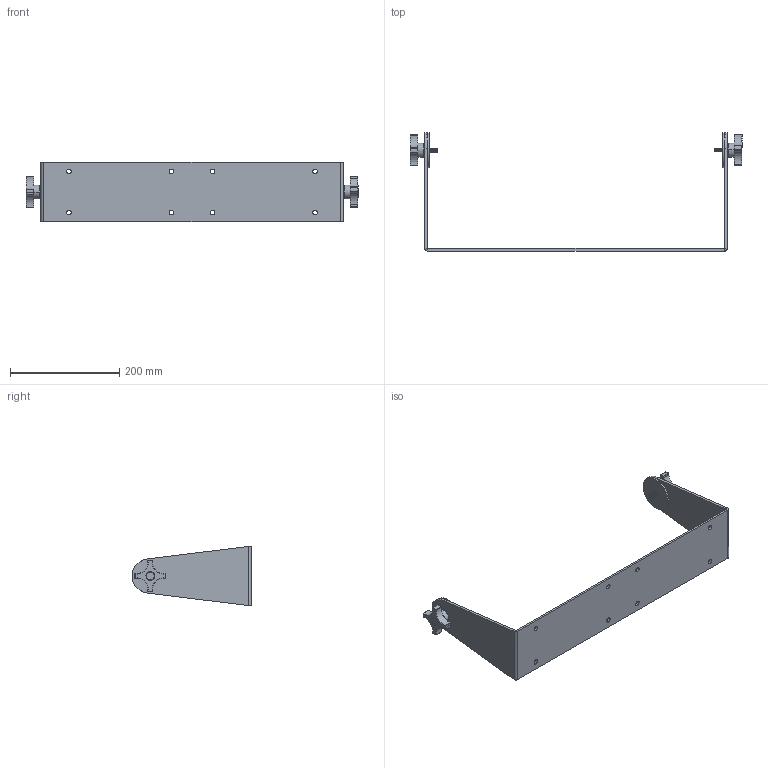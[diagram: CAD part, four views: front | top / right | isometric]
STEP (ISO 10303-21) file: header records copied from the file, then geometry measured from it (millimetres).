
FILE_DESCRIPTION (( 'STEP AP214' ), '1' );
FILE_NAME ('Wall Yoke for 19.5 inch Universal Mount Monitor, YW19.5-2.STEP', '2022-06-22T18:11:08', ( '' ), ( '' ), 'SwSTEP 2.0', 'SolidWorks 2020', '' );
FILE_SCHEMA (( 'AUTOMOTIVE_DESIGN' ));
Length unit declared in the file: inch
Products named in the file (5): Rubber Washer, 10177; Knob, 30053; Wall Yoke for 19.5 inch Universal Mount Monitor, YW19.5-2; Bushing, 30501; All Wall Yoke Configurations, YWxx_YW19.5-2
Assembly tree (7 placements, depth 2):
  Wall Yoke for 19.5 inch Universal Mount Monitor, YW19.5-2
    All Wall Yoke Configurations, YWxx_YW19.5-2
    Rubber Washer, 10177  x2
    Knob, 30053  x2
    Bushing, 30501  x2
Bounding box: 606.45 x 215.9 x 107.95 mm (x, y, z)
Volume: 511556.7 mm3; surface area: 225152.4 mm2
Topology: 7 solids, 7 shells, 568 faces, 1228 edges, 666 vertices
Faces by surface type: cylinder 262, cone 176, torus 48, sphere 40, plane 38, bspline 4
Entity records: 10971 total; most frequent: CARTESIAN_POINT 4020, DIRECTION 1495, ORIENTED_EDGE 1340, EDGE_CURVE 670, AXIS2_PLACEMENT_3D 612, VERTEX_POINT 371, EDGE_LOOP 339, FACE_OUTER_BOUND 311
